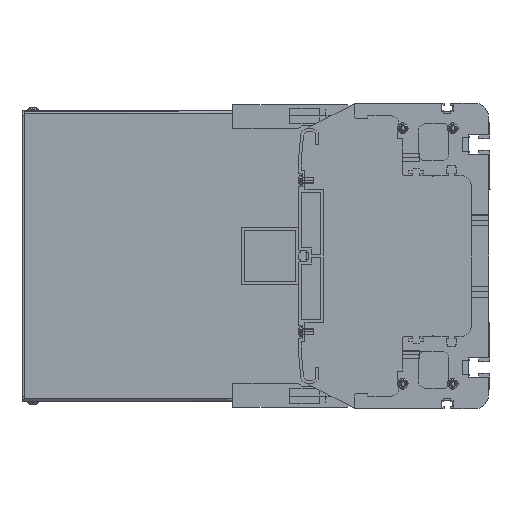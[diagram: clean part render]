
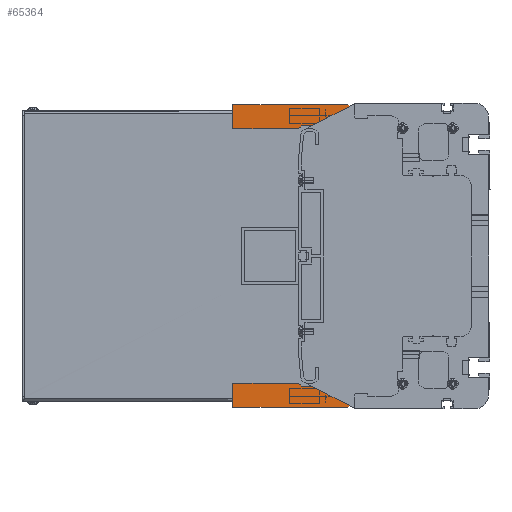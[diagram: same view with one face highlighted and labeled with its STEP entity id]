
A CAD part, left-side view. The second image highlights one B-rep face of the part: STEP entity #65364.
In plain terms, the highlighted planar face has unit normal (-1, 0, 0).
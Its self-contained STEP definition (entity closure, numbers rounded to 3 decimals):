
#60888=DIRECTION('',(0.,0.,1.));
#60889=VECTOR('',#60888,134.);
#60890=CARTESIAN_POINT('',(-434.5,111.,-67.));
#60891=LINE('',#60890,#60889);
#61153=DIRECTION('',(0.,1.,0.));
#61154=VECTOR('',#61153,46.);
#61155=CARTESIAN_POINT('',(-434.5,134.,-89.));
#61156=LINE('',#61155,#61154);
#61378=DIRECTION('',(0.,0.,1.));
#61379=VECTOR('',#61378,13.);
#61380=CARTESIAN_POINT('',(-434.5,114.5,-86.));
#61381=LINE('',#61380,#61379);
#61514=DIRECTION('',(0.,1.,0.));
#61515=VECTOR('',#61514,79.);
#61516=CARTESIAN_POINT('',(-434.5,101.,-106.));
#61517=LINE('',#61516,#61515);
#61518=DIRECTION('',(0.,-0.707,-0.707));
#61519=VECTOR('',#61518,2.828);
#61520=CARTESIAN_POINT('',(-434.5,134.,-89.));
#61521=LINE('',#61520,#61519);
#61522=CARTESIAN_POINT('',(-434.5,119.5,-86.));
#61523=DIRECTION('',(-1.,0.,0.));
#61524=DIRECTION('',(0.,0.,-1.));
#61525=AXIS2_PLACEMENT_3D('',#61522,#61523,#61524);
#61527=CARTESIAN_POINT('',(-434.5,119.5,86.));
#61528=DIRECTION('',(-1.,0.,0.));
#61529=DIRECTION('',(0.,-1.,0.));
#61530=AXIS2_PLACEMENT_3D('',#61527,#61528,#61529);
#61532=DIRECTION('',(0.,0.707,-0.707));
#61533=VECTOR('',#61532,2.828);
#61534=CARTESIAN_POINT('',(-434.5,132.,91.));
#61535=LINE('',#61534,#61533);
#61536=DIRECTION('',(0.,0.,-1.));
#61537=VECTOR('',#61536,17.);
#61538=CARTESIAN_POINT('',(-434.5,180.,106.));
#61539=LINE('',#61538,#61537);
#61540=DIRECTION('',(0.,-1.,0.));
#61541=VECTOR('',#61540,79.);
#61542=CARTESIAN_POINT('',(-434.5,180.,106.));
#61543=LINE('',#61542,#61541);
#61544=CARTESIAN_POINT('',(-434.5,101.,102.));
#61545=DIRECTION('',(1.,0.,0.));
#61546=DIRECTION('',(0.,0.,1.));
#61547=AXIS2_PLACEMENT_3D('',#61544,#61545,#61546);
#61549=CARTESIAN_POINT('',(-434.5,101.,-102.));
#61550=DIRECTION('',(1.,0.,0.));
#61551=DIRECTION('',(0.,-1.,0.));
#61552=AXIS2_PLACEMENT_3D('',#61549,#61550,#61551);
#61614=DIRECTION('',(0.,0.,1.));
#61615=VECTOR('',#61614,17.);
#61616=CARTESIAN_POINT('',(-434.5,180.,-106.));
#61617=LINE('',#61616,#61615);
#61810=DIRECTION('',(0.,0.,-1.));
#61811=VECTOR('',#61810,204.);
#61812=CARTESIAN_POINT('',(-434.5,97.,102.));
#61813=LINE('',#61812,#61811);
#62189=DIRECTION('',(0.,-1.,0.));
#62190=VECTOR('',#62189,46.);
#62191=CARTESIAN_POINT('',(-434.5,180.,89.));
#62192=LINE('',#62191,#62190);
#62240=DIRECTION('',(0.,1.,0.));
#62241=VECTOR('',#62240,12.5);
#62242=CARTESIAN_POINT('',(-434.5,119.5,91.));
#62243=LINE('',#62242,#62241);
#62310=DIRECTION('',(0.,0.,1.));
#62311=VECTOR('',#62310,13.);
#62312=CARTESIAN_POINT('',(-434.5,114.5,73.));
#62313=LINE('',#62312,#62311);
#62626=DIRECTION('',(0.,1.,0.));
#62627=VECTOR('',#62626,6.5);
#62628=CARTESIAN_POINT('',(-434.5,108.,73.));
#62629=LINE('',#62628,#62627);
#62634=DIRECTION('',(0.,0.,1.));
#62635=VECTOR('',#62634,6.);
#62636=CARTESIAN_POINT('',(-434.5,108.,67.));
#62637=LINE('',#62636,#62635);
#62642=DIRECTION('',(0.,-1.,0.));
#62643=VECTOR('',#62642,3.);
#62644=CARTESIAN_POINT('',(-434.5,111.,67.));
#62645=LINE('',#62644,#62643);
#63497=DIRECTION('',(0.,-1.,0.));
#63498=VECTOR('',#63497,12.5);
#63499=CARTESIAN_POINT('',(-434.5,132.,-91.));
#63500=LINE('',#63499,#63498);
#63501=DIRECTION('',(0.,-1.,0.));
#63502=VECTOR('',#63501,6.5);
#63503=CARTESIAN_POINT('',(-434.5,114.5,-73.));
#63504=LINE('',#63503,#63502);
#63513=DIRECTION('',(0.,0.,1.));
#63514=VECTOR('',#63513,6.);
#63515=CARTESIAN_POINT('',(-434.5,108.,-73.));
#63516=LINE('',#63515,#63514);
#63525=DIRECTION('',(0.,1.,0.));
#63526=VECTOR('',#63525,3.);
#63527=CARTESIAN_POINT('',(-434.5,108.,-67.));
#63528=LINE('',#63527,#63526);
#63813=CARTESIAN_POINT('',(-434.5,180.,106.));
#63815=VERTEX_POINT('',#63813);
#63819=CARTESIAN_POINT('',(-434.5,180.,89.));
#63820=VERTEX_POINT('',#63819);
#63834=CARTESIAN_POINT('',(-434.5,180.,-106.));
#63836=VERTEX_POINT('',#63834);
#63837=CARTESIAN_POINT('',(-434.5,180.,-89.));
#63838=VERTEX_POINT('',#63837);
#63853=CARTESIAN_POINT('',(-434.5,97.,102.));
#63854=CARTESIAN_POINT('',(-434.5,97.,-102.));
#63855=VERTEX_POINT('',#63853);
#63856=VERTEX_POINT('',#63854);
#63857=CARTESIAN_POINT('',(-434.5,101.,106.));
#63858=VERTEX_POINT('',#63857);
#63859=CARTESIAN_POINT('',(-434.5,132.,91.));
#63860=CARTESIAN_POINT('',(-434.5,134.,89.));
#63861=VERTEX_POINT('',#63859);
#63862=VERTEX_POINT('',#63860);
#63863=CARTESIAN_POINT('',(-434.5,119.5,91.));
#63864=VERTEX_POINT('',#63863);
#63865=CARTESIAN_POINT('',(-434.5,114.5,86.));
#63866=VERTEX_POINT('',#63865);
#63867=CARTESIAN_POINT('',(-434.5,114.5,73.));
#63868=VERTEX_POINT('',#63867);
#63869=CARTESIAN_POINT('',(-434.5,108.,73.));
#63870=VERTEX_POINT('',#63869);
#63871=CARTESIAN_POINT('',(-434.5,108.,67.));
#63872=VERTEX_POINT('',#63871);
#63873=CARTESIAN_POINT('',(-434.5,111.,67.));
#63874=VERTEX_POINT('',#63873);
#63875=CARTESIAN_POINT('',(-434.5,111.,-67.));
#63876=VERTEX_POINT('',#63875);
#63877=CARTESIAN_POINT('',(-434.5,108.,-67.));
#63878=VERTEX_POINT('',#63877);
#63879=CARTESIAN_POINT('',(-434.5,108.,-73.));
#63880=VERTEX_POINT('',#63879);
#63881=CARTESIAN_POINT('',(-434.5,114.5,-73.));
#63882=VERTEX_POINT('',#63881);
#63883=CARTESIAN_POINT('',(-434.5,114.5,-86.));
#63884=VERTEX_POINT('',#63883);
#63885=CARTESIAN_POINT('',(-434.5,119.5,-91.));
#63886=VERTEX_POINT('',#63885);
#63887=CARTESIAN_POINT('',(-434.5,132.,-91.));
#63888=VERTEX_POINT('',#63887);
#63889=CARTESIAN_POINT('',(-434.5,134.,-89.));
#63890=VERTEX_POINT('',#63889);
#63891=CARTESIAN_POINT('',(-434.5,101.,-106.));
#63892=VERTEX_POINT('',#63891);
#65313=CARTESIAN_POINT('',(-434.5,118.5,0.));
#65314=DIRECTION('',(1.,0.,0.));
#65315=DIRECTION('',(0.,0.,-1.));
#65316=AXIS2_PLACEMENT_3D('',#65313,#65314,#65315);
#65317=PLANE('',#65316);
#65319=ORIENTED_EDGE('',*,*,#65318,.T.);
#65321=ORIENTED_EDGE('',*,*,#65320,.T.);
#65322=ORIENTED_EDGE('',*,*,#64919,.F.);
#65324=ORIENTED_EDGE('',*,*,#65323,.T.);
#65326=ORIENTED_EDGE('',*,*,#65325,.T.);
#65327=ORIENTED_EDGE('',*,*,#65304,.T.);
#65328=ORIENTED_EDGE('',*,*,#65202,.T.);
#65330=ORIENTED_EDGE('',*,*,#65329,.T.);
#65332=ORIENTED_EDGE('',*,*,#65331,.T.);
#65334=ORIENTED_EDGE('',*,*,#65333,.T.);
#65335=ORIENTED_EDGE('',*,*,#64691,.T.);
#65337=ORIENTED_EDGE('',*,*,#65336,.T.);
#65339=ORIENTED_EDGE('',*,*,#65338,.T.);
#65341=ORIENTED_EDGE('',*,*,#65340,.T.);
#65343=ORIENTED_EDGE('',*,*,#65342,.T.);
#65345=ORIENTED_EDGE('',*,*,#65344,.T.);
#65347=ORIENTED_EDGE('',*,*,#65346,.T.);
#65349=ORIENTED_EDGE('',*,*,#65348,.T.);
#65351=ORIENTED_EDGE('',*,*,#65350,.F.);
#65353=ORIENTED_EDGE('',*,*,#65352,.F.);
#65355=ORIENTED_EDGE('',*,*,#65354,.T.);
#65357=ORIENTED_EDGE('',*,*,#65356,.T.);
#65359=ORIENTED_EDGE('',*,*,#65358,.T.);
#65361=ORIENTED_EDGE('',*,*,#65360,.T.);
#65362=EDGE_LOOP('',(#65319,#65321,#65322,#65324,#65326,#65327,#65328,#65330,
#65332,#65334,#65335,#65337,#65339,#65341,#65343,#65345,#65347,#65349,#65351,
#65353,#65355,#65357,#65359,#65361));
#65363=FACE_OUTER_BOUND('',#65362,.F.);
#65364=ADVANCED_FACE('',(#65363),#65317,.F.);
#61526=CIRCLE('',#61525,5.);
#61531=CIRCLE('',#61530,5.);
#61548=CIRCLE('',#61547,4.);
#61553=CIRCLE('',#61552,4.);
#64691=EDGE_CURVE('',#63876,#63874,#60891,.T.);
#64919=EDGE_CURVE('',#63890,#63838,#61156,.T.);
#65202=EDGE_CURVE('',#63884,#63882,#61381,.T.);
#65304=EDGE_CURVE('',#63886,#63884,#61526,.T.);
#65318=EDGE_CURVE('',#63892,#63836,#61517,.T.);
#65320=EDGE_CURVE('',#63836,#63838,#61617,.T.);
#65323=EDGE_CURVE('',#63890,#63888,#61521,.T.);
#65325=EDGE_CURVE('',#63888,#63886,#63500,.T.);
#65329=EDGE_CURVE('',#63882,#63880,#63504,.T.);
#65331=EDGE_CURVE('',#63880,#63878,#63516,.T.);
#65333=EDGE_CURVE('',#63878,#63876,#63528,.T.);
#65336=EDGE_CURVE('',#63874,#63872,#62645,.T.);
#65338=EDGE_CURVE('',#63872,#63870,#62637,.T.);
#65340=EDGE_CURVE('',#63870,#63868,#62629,.T.);
#65342=EDGE_CURVE('',#63868,#63866,#62313,.T.);
#65344=EDGE_CURVE('',#63866,#63864,#61531,.T.);
#65346=EDGE_CURVE('',#63864,#63861,#62243,.T.);
#65348=EDGE_CURVE('',#63861,#63862,#61535,.T.);
#65350=EDGE_CURVE('',#63820,#63862,#62192,.T.);
#65352=EDGE_CURVE('',#63815,#63820,#61539,.T.);
#65354=EDGE_CURVE('',#63815,#63858,#61543,.T.);
#65356=EDGE_CURVE('',#63858,#63855,#61548,.T.);
#65358=EDGE_CURVE('',#63855,#63856,#61813,.T.);
#65360=EDGE_CURVE('',#63856,#63892,#61553,.T.);
